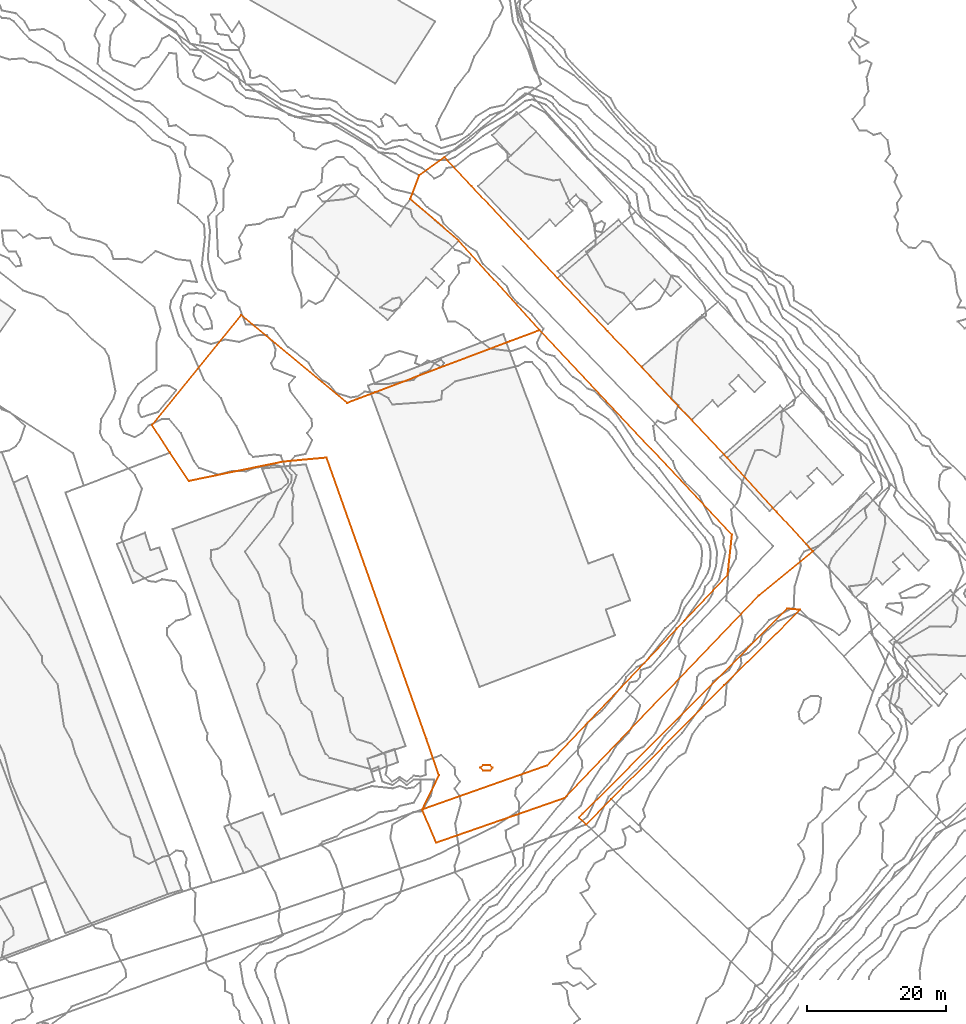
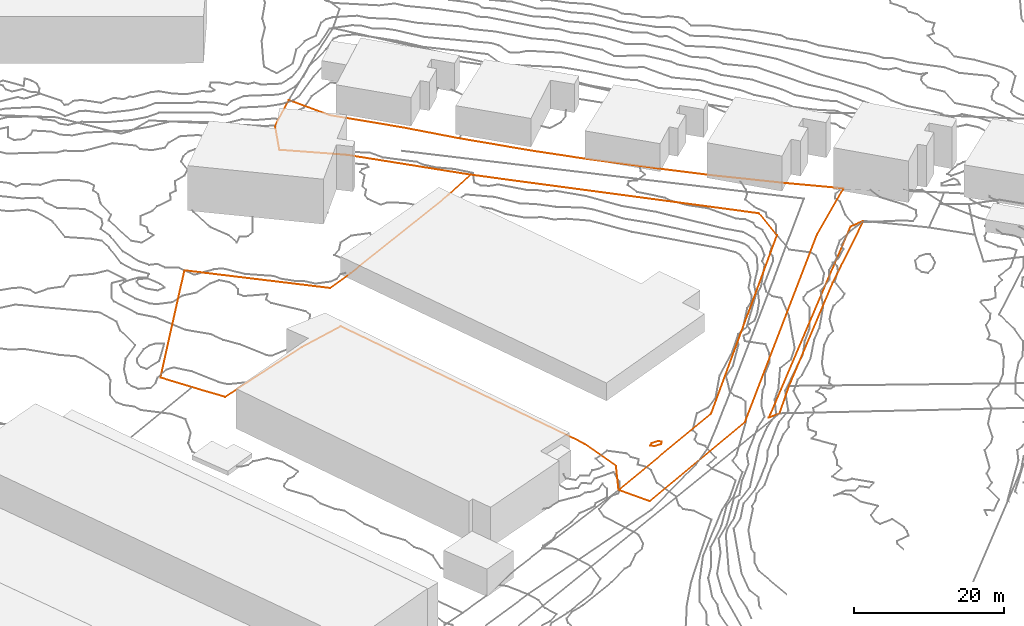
# Not in any storey, part 165 of 419: 4 proxies.
"""IFC2X3 model written with IfcOpenShell, lengths in metres."""

from ifc_helpers import new_model, entity, si_unit, frame, origin_with_axes, place, context, subcontext, project, element, save


model = new_model("IFC2X3")

# Units and contexts
model_context = context("Model", 3, precision=1e-05, world=origin_with_axes())
body_context = subcontext(model_context, "Body", "Model", "MODEL_VIEW")
ifc_project = project(units=[si_unit("AREAUNIT", "SQUARE_METRE"), si_unit("LENGTHUNIT", "METRE")], contexts=[model_context])

# Proxies
proxy_1_placement = place(None, frame((462.6320204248, 126.4376909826, 30.216432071), z_axis=(0.0, 0.0, 1.0), x_axis=(1.0, 0.0, 0.0)))
element("IfcBuildingElementProxy", 1, at=proxy_1_placement, Name="Cadastre 350", ObjectType="NOTDEFINED", context=body_context, shape_type="GeometricCurveSet", body=[
    entity("IfcGeometricCurveSet", [entity("IfcPolyline", [entity("IfcCartesianPoint", [4.9199999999, 6.04, 2.7203044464]), entity("IfcCartesianPoint", [8.7999999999, 1.8899999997, 1.4083445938]), entity("IfcCartesianPoint", [15.9299999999, -5.7299999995, 1.4977334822]), entity("IfcCartesianPoint", [21.14, -11.3099999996, 1.3322093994]), entity("IfcCartesianPoint", [28.3199999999, -18.9000000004, 1.3485437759]), entity("IfcCartesianPoint", [33.15, -24.0300000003, 1.5249677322]), entity("IfcCartesianPoint", [40.3199999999, -31.6399999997, 1.9976491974]), entity("IfcCartesianPoint", [45.45, -37.0800000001, 2.3977666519]), entity("IfcCartesianPoint", [52.51, -44.7800000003, 3.3170090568]), entity("IfcCartesianPoint", [57.74, -50.4699999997, 4.1207545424]), entity("IfcCartesianPoint", [49.95, -56.8600000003, 3.1670035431]), entity("IfcCartesianPoint", [22.11, -85.8700000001, 0.0319079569]), entity("IfcCartesianPoint", [3.72, -92.2800000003, -2.551679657]), entity("IfcCartesianPoint", [1.71, -87.5099999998, -2.9235320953]), entity("IfcCartesianPoint", [19.61, -81.1899999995, -0.572582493]), entity("IfcCartesianPoint", [45.5, -53.9100000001, 2.8854819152]), entity("IfcCartesianPoint", [46.13, -48.1200000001, 2.6883175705]), entity("IfcCartesianPoint", [18.58, -18.7699999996, 0.8294219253]), entity("IfcCartesianPoint", [6.95, -5.9500000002, 0.3587793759]), entity("IfcCartesianPoint", [0.0, 0.0, 0.0]), entity("IfcCartesianPoint", [1.2999999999, 3.4100000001, 1.4465979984]), entity("IfcCartesianPoint", [4.9199999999, 6.04, 2.7203044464])])]),
])
proxy_2_placement = place(None, frame((486.8120204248, 37.7676909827, 31.9122080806), z_axis=(0.0, 0.0, 1.0), x_axis=(1.0, 0.0, 0.0)))
element("IfcBuildingElementProxy", 2, at=proxy_2_placement, Name="Cadastre 353", ObjectType="NOTDEFINED", context=body_context, shape_type="GeometricCurveSet", body=[
    entity("IfcGeometricCurveSet", [entity("IfcPolyline", [entity("IfcCartesianPoint", [31.75, 29.79, 2.8564108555]), entity("IfcCartesianPoint", [20.8200000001, 19.0099999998, 3.1409043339]), entity("IfcCartesianPoint", [4.6100000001, 2.6100000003, 1.9667252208]), entity("IfcCartesianPoint", [1.05, -1.0, 0.934276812]), entity("IfcCartesianPoint", [0.0, 0.0, 0.0]), entity("IfcCartesianPoint", [0.53, 0.5300000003, 0.0192910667]), entity("IfcCartesianPoint", [29.87, 29.96, 2.507938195]), entity("IfcCartesianPoint", [31.75, 29.79, 2.8564108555])])]),
])
proxy_3_placement = place(None, frame((425.6120204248, 94.0576909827, 25.730804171), z_axis=(0.0, 0.0, 1.0), x_axis=(1.0, 0.0, 0.0)))
element("IfcBuildingElementProxy", 3, at=proxy_3_placement, Name="Cadastre 355", ObjectType="NOTDEFINED", context=body_context, shape_type="GeometricCurveSet", body=[
    entity("IfcGeometricCurveSet", [entity("IfcPolyline", [entity("IfcCartesianPoint", [38.73, -55.1299999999, 1.5620958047]), entity("IfcCartesianPoint", [41.15, -50.2400000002, 1.6860073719]), entity("IfcCartesianPoint", [39.35, -45.0599999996, 2.7561765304]), entity("IfcCartesianPoint", [25.03, -4.6799999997, 2.4238854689]), entity("IfcCartesianPoint", [18.78, -5.2599999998, 1.6171962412]), entity("IfcCartesianPoint", [5.3, -8.0200000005, -0.1327563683]), entity("IfcCartesianPoint", [2.5600000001, -3.9699999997, -0.049198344]), entity("IfcCartesianPoint", [0.0, 0.0, 0.0]), entity("IfcCartesianPoint", [12.78, 15.7400000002, 3.4367959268]), entity("IfcCartesianPoint", [27.9399999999, 3.1500000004, 2.8883441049]), entity("IfcCartesianPoint", [31.96, 4.6799999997, 2.9479113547]), entity("IfcCartesianPoint", [51.35, 12.0099999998, 4.5313486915]), entity("IfcCartesianPoint", [55.6, 13.6100000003, 5.3150498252]), entity("IfcCartesianPoint", [83.15, -15.7400000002, 7.1739454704]), entity("IfcCartesianPoint", [82.52, -21.5300000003, 7.3711098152]), entity("IfcCartesianPoint", [56.63, -48.8099999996, 3.9130454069]), entity("IfcCartesianPoint", [38.73, -55.1299999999, 1.5620958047])])]),
])
proxy_4_placement = place(None, frame((472.6634509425, 44.8976909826, 28.0), z_axis=(0.0, 0.0, 1.0), x_axis=(1.0, 0.0, 0.0)))
element("IfcBuildingElementProxy", 4, at=proxy_4_placement, Name="Contour 28.0 m", ObjectType="NOTDEFINED", context=body_context, shape_type="GeometricCurveSet", body=[
    entity("IfcGeometricCurveSet", [entity("IfcPolyline", [entity("IfcCartesianPoint", [1.4285694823, -0.4285694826, 0.0]), entity("IfcCartesianPoint", [1.7815073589, 0.0, 0.0]), entity("IfcCartesianPoint", [1.4285694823, 0.3999974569, 0.0]), entity("IfcCartesianPoint", [0.4285694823, 0.3999974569, 0.0]), entity("IfcCartesianPoint", [0.0, 0.0, 0.0]), entity("IfcCartesianPoint", [0.4285694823, -0.3999974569, 0.0]), entity("IfcCartesianPoint", [1.4285694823, -0.4285694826, 0.0])])]),
])

save(model, "model.ifc")
